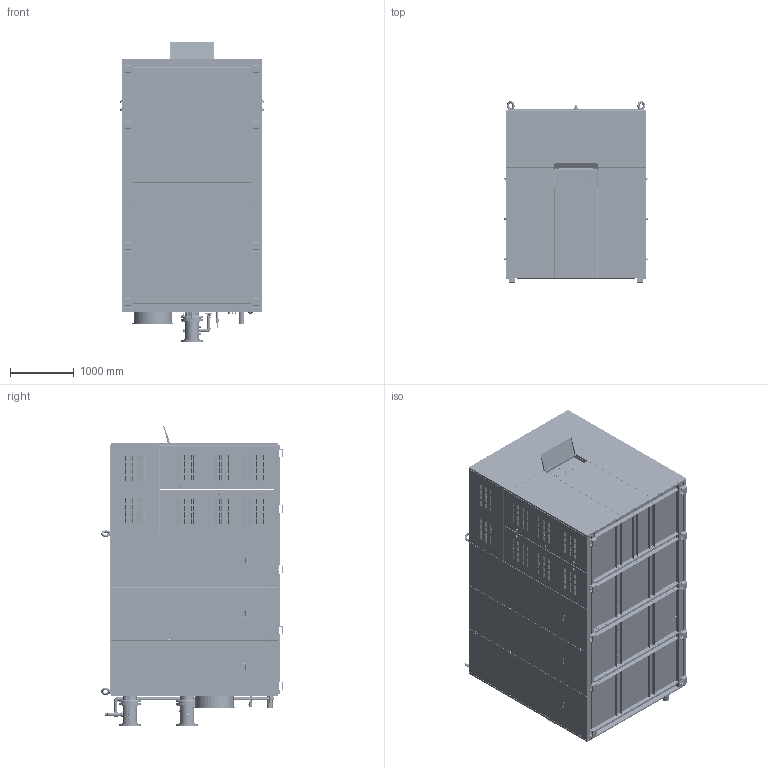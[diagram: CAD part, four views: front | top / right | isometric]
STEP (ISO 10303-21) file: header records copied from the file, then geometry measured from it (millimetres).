
FILE_DESCRIPTION (( 'STEP AP214' ), '1' );
FILE_NAME ('CBRP-SC8-V1.STEP', '2024-04-17T13:05:21', ( '' ), ( '' ), 'SwSTEP 2.0', 'SolidWorks 2020', '' );
FILE_SCHEMA (( 'AUTOMOTIVE_DESIGN' ));
Length unit declared in the file: millimetre
Products named in the file (144): CBRP-SC8-V1-53; CBRP-SC8-V1-76-03; CBRP-SC8-V1-06-04; CBRP-SC8-V1-06-08; CBRP-SC8-V1-61-02; CBRP-SC8-V1-74-15; CBRP-SC8-V1-11-11; CBRP-SC8-V1-31-08; CBRP-SC8-V1-02; CBRP-SC8-V1-01-02; CBRP-SC8-V1-74_front plate U300; CBRP-SC8-V1-04-01_3; hex nut style 1 gradeab_din_Hexagon Nut ISO 4032 - M20 - W - N; CBRP-SC8-V1-31-10; CBRP-SC8-V1-74-02; CBRP-SC8-V1-62-11_1; CBRP-SC8-V1-06-03; hex nut style 1 gradeab_iso_ISO - 4032 - M42 - W - N; CBRP-SC8-V1-06-12; CBRP-SC8-V1-74-13; CBRP-SC8-V1-11-10; D; MirrorCBRP-SC8-V1-32-10; CBRP-SC8-V1-06-11; hex nut gradec_din_Hexagon Nut ISO 4034 - M12 - N; CBRP-SC8-V1-53-12; CBRP-SC8-V1-11-09; CBRP-SC8-V1-06-01; CBRP-SC8-V1-41-01; CBRP-SC8-V1-52-13; CBRP-SC8-V1-41; plain washer grade a_din_Washer DIN 125 - A 25; CBRP-SC8-V1-76-04; CBRP-SC8-V1-06-17; CBRP-SC8-V1-01-03; CBRP-SC8-V1-61-05; CBRP-SC8-V1-31-03; plain washer 6916 structural_din_DIN 6916-25; CBRP-SC8-V1-06-16; CBRP-SC8-V1-02-01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
Assembly tree (415 placements, depth 5):
  CBRP-SC8-V1
    CBRP-SC8-V1-02
      CBRP-SC8-V1-05_post mix 4000 kW
        CBRP-SC8-V1-52
          CBRP-SC8-V1-52-05
          CBRP-SC8-V1-52-07
          CBRP-SC8-V1-52-08  x2
          CBRP-SC8-V1-52-13
          CBRP-SC8-V1-52-24
        CBRP-SC8-V1-53
          CBRP-SC8-V1-53-12
          CBRP-SC8-V1-52-13
        CBRP-SC8-V1-57-01
        CBRP-SC8-V1-52-07
        CBRP-SC8-V1-52-08  x2
        CBRP-SC8-V1-55
          CBRP-SC8-V1-55-02_6
      CBRP-SC8-V1-03
        CBRP-SC8-V1-31
          CBRP-SC8-V1-31-02
          CBRP-SC8-V1-31-03  x2
          CBRP-SC8-V1-31-04
          CBRP-SC8-V1-31-05
          CBRP-SC8-V1-31-06  x12
          CBRP-SC8-V1-31-07
          CBRP-SC8-V1-31-08  x8
          CBRP-SC8-V1-31-17
          CBRP-SC8-V1-31-10
          CBRP-SC8-V1-31-01
          MirrorCBRP-SC8-V1-31-03  x2
          CBRP-SC8-V1-31-09  x2
          CBRP-SC8-V1-31-12
          CBRP-SC8-V1-31-15
          CBRP-SC8-V1-31-13
          CBRP-SC8-V1-32-10  x4
          MirrorCBRP-SC8-V1-32-10  x4
          CBRP-SC8-V1-31-16
      CBRP-SC8-V1-04
        CBRP-SC8-V1-41
          CBRP-SC8-V1-41-02  x2
          CBRP-SC8-V1-41-01
        CBRP-SC8-V1-52-21  x3
        CBRP-SC8-V1-04-01_3
        CBRP-SC8-V1-04-01  x2
        CBRP-SC8-V1-04-01_4
        CBRP-SC8-V1-04-02  x2
        CBRP-SC8-V1-41-02
        CBRP-SC8-V1-42-12  x4
      CBRP-SC8-V1-74_front plate U300
        CBRP-SC8-V1-74-02
        CBRP-SC8-V1-74-03
        CBRP-SC8-V1-74-04
        CBRP-SC8-V1-74-05  x4
        CBRP-SC8-V1-74-06  x4
        CBRP-SC8-V1-74-07
        CBRP-SC8-V1-74-11
        CBRP-SC8-V1-74-12
        CBRP-SC8-V1-74-13
        CBRP-SC8-V1-74-14  x2
        CBRP-SC8-V1-74-15  x2
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Bounding box: 2241.5 x 2846 x 4702.82 mm (x, y, z)
Volume: 167353810.9 mm3; surface area: 160027189.6 mm2
Topology: 506 solids, 875 shells, 49413 faces, 127918 edges, 80034 vertices
Faces by surface type: plane 18173, bspline 16578, cylinder 12758, cone 1250, torus 592, sphere 62
Entity records: 848552 total; most frequent: CARTESIAN_POINT 400485, ORIENTED_EDGE 98210, DIRECTION 62692, EDGE_CURVE 49323, VERTEX_POINT 31297, B_SPLINE_CURVE_WITH_KNOTS 23947, AXIS2_PLACEMENT_3D 23785, EDGE_LOOP 21679
